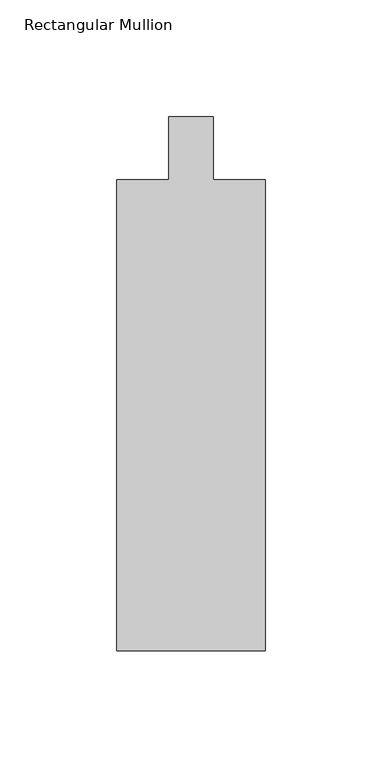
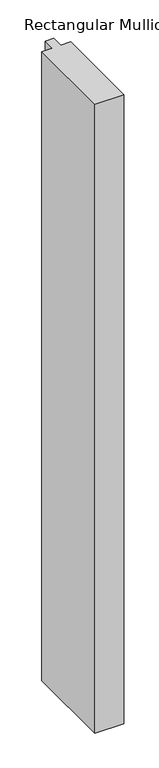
"""IFC4 building model written with IfcOpenShell, lengths in millimetres: member geometry."""

from ifc_helpers import new_model, si_unit, frame, origin, place, context, project, spatial, polyline, outline, extrude, source, transform, mapped, element, save


def rectangular_mullion_d6b43637(model_context):
    return source(origin(), model_context, "Body", "SweptSolid", [
        extrude(outline(polyline([(-63.5, -228.6), (-63.5, -26.9875), (-41.275, -26.9875), (-41.275, 0.0), (-22.225, 0.0), (-22.225, -26.9875), (0.0, -26.9875), (0.0, -228.6), (-63.5, -228.6)])), frame((0.0, 0.0, -1462.6166667), z_axis=(0.0, 0.0, 1.0), x_axis=(1.0, 0.0, 0.0)), (0.0, 0.0, 1.0), 1462.6166667),
    ])


if __name__ == "__main__":
    model = new_model("IFC4")
    model_context = context("Model", 3, world=origin())
    ifc_project = project(units=[si_unit("LENGTHUNIT", "METRE", prefix="MILLI")], contexts=[model_context])
    site = spatial("IfcSite", under=ifc_project)
    building = spatial("IfcBuilding", under=site)
    placement = place(None, origin())
    rectangular_mullion_shape = rectangular_mullion_d6b43637(model_context)
    element("IfcMember", 1, ObjectType="Rectangular Mullion : 2 1/2\" x 8\" - Capless", at=placement, inside=building, context=model_context, shape_type="MappedRepresentation", body=[
        mapped(rectangular_mullion_shape, transform((0.0, 0.0, 0.0), x_axis=(1.0, 0.0, 0.0), y_axis=(0.0, 1.0, 0.0), z_axis=(0.0, 0.0, 1.0))),
    ])
    save(model, "model.ifc")
